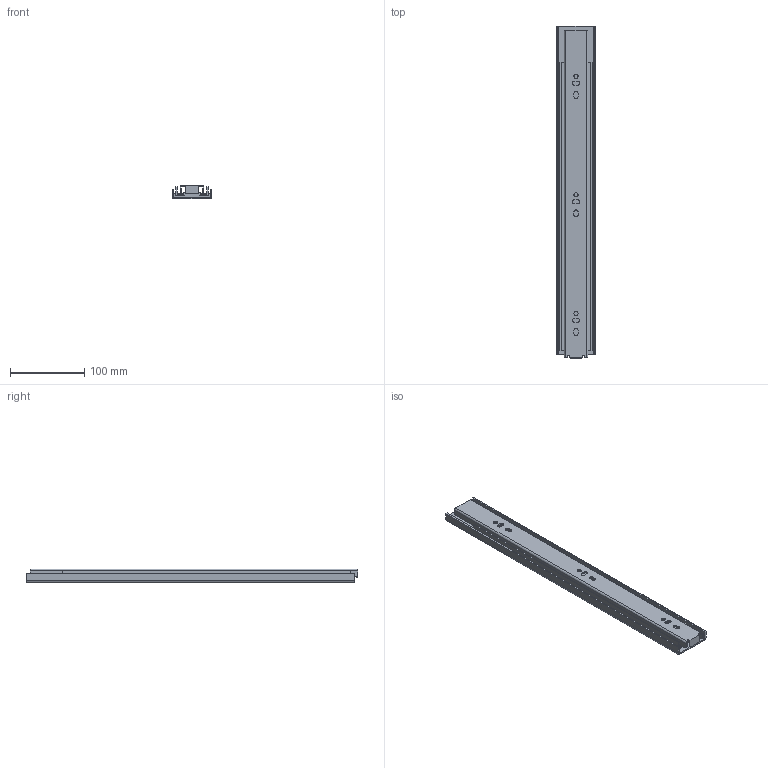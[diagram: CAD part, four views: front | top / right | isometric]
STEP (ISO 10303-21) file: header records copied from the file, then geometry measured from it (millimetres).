
FILE_DESCRIPTION((''),'2;1');
FILE_NAME('78A01_450_CLOSE_ASM','2020-09-01T15:17:08',('T170334'),(''),'CREO PARAMETRIC BY PTC INC, 2018260','CREO PARAMETRIC BY PTC INC, 2018260','');
FILE_SCHEMA(('CONFIG_CONTROL_DESIGN'));
Length unit declared in the file: millimetre
Products named in the file (5): OUT_450; MID_450; IN_450; MECHANISM_C; 78A01_450_CLOSE_ASM
Assembly tree (4 placements, depth 2):
  78A01_450_CLOSE_ASM
    OUT_450
    MID_450
    IN_450
    MECHANISM_C
Bounding box: 53.32 x 448 x 18.84 mm (x, y, z)
Volume: 159526.4 mm3; surface area: 169457.5 mm2
Topology: 4 solids, 4 shells, 158 faces, 446 edges, 296 vertices
Faces by surface type: plane 80, cylinder 78
Entity records: 5363 total; most frequent: CARTESIAN_POINT 949, DIRECTION 920, ORIENTED_EDGE 892, EDGE_CURVE 446, AXIS2_PLACEMENT_3D 315, VERTEX_POINT 296, VECTOR 290, LINE 290
